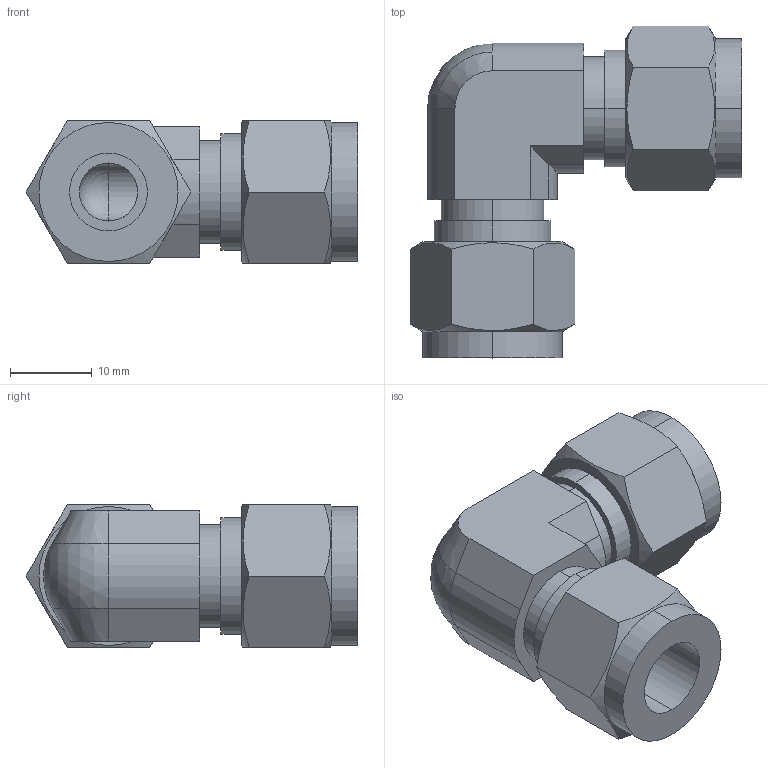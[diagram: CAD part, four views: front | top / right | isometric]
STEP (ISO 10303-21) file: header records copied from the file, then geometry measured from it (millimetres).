
FILE_DESCRIPTION (( 'STEP AP203' ), '1' );
FILE_NAME ('DLA06 SS.STEP', '2009-10-26T06:02:27', ( ' ' ), ( '' ), 'SwSTEP 2.0', 'SolidWorks 2008', '' );
FILE_SCHEMA (( 'CONFIG_CONTROL_DESIGN' ));
Length unit declared in the file: millimetre
Products named in the file (1): DLA06 SS
Bounding box: 40.58 x 40.58 x 17.46 mm (x, y, z)
Volume: 9778 mm3; surface area: 5677.2 mm2
Topology: 1 solids, 1 shells, 68 faces, 164 edges, 104 vertices
Faces by surface type: plane 32, cylinder 24, cone 10, sphere 2
Entity records: 2233 total; most frequent: CARTESIAN_POINT 609, ORIENTED_EDGE 320, DIRECTION 316, EDGE_CURVE 160, AXIS2_PLACEMENT_3D 121, VERTEX_POINT 102, EDGE_LOOP 78, VECTOR 74
